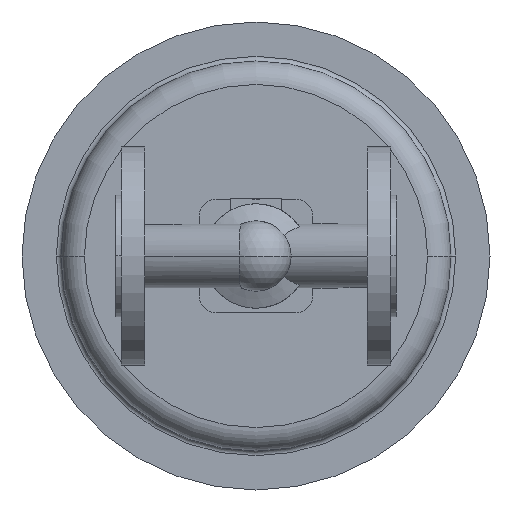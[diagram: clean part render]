
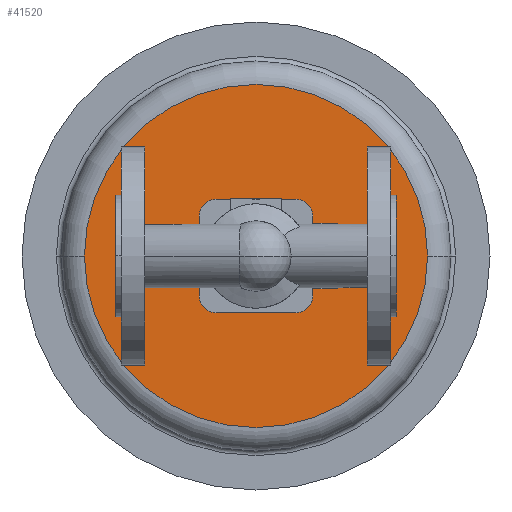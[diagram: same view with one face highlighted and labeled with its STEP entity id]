
A CAD part, front view. The second image highlights one B-rep face of the part: STEP entity #41520.
In plain terms, the highlighted planar face has unit normal (0, -1, 0).
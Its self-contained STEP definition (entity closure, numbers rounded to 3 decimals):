
#34020=CARTESIAN_POINT('',(-20.,356.5,0.));
#34030=VERTEX_POINT('',#34020);
#34060=CARTESIAN_POINT('',(90.,356.5,0.));
#34070=DIRECTION('',(0.,1.,0.));
#34080=DIRECTION('',(1.,0.,0.));
#34090=AXIS2_PLACEMENT_3D('',#34060,#34070,#34080);
#34100=CIRCLE('',#34090,110.);
#34110=CARTESIAN_POINT('',(200.,356.5,0.));
#34120=VERTEX_POINT('',#34110);
#34130=EDGE_CURVE('',#34120,#34030,#34100,.T.);
#34790=CARTESIAN_POINT('',(155.,356.5,0.));
#34800=VERTEX_POINT('',#34790);
#34960=CARTESIAN_POINT('',(125.,356.5,0.));
#34970=VERTEX_POINT('',#34960);
#35000=CARTESIAN_POINT('',(140.,356.5,0.));
#35010=DIRECTION('',(0.,1.,0.));
#35020=DIRECTION('',(1.,0.,0.));
#35030=AXIS2_PLACEMENT_3D('',#35000,#35010,#35020);
#35040=CIRCLE('',#35030,15.);
#35050=EDGE_CURVE('',#34970,#34800,#35040,.T.);
#35210=CARTESIAN_POINT('',(55.,356.5,0.));
#35220=VERTEX_POINT('',#35210);
#35380=CARTESIAN_POINT('',(25.,356.5,0.));
#35390=VERTEX_POINT('',#35380);
#35420=CARTESIAN_POINT('',(40.,356.5,0.));
#35430=DIRECTION('',(0.,1.,0.));
#35440=DIRECTION('',(1.,0.,0.));
#35450=AXIS2_PLACEMENT_3D('',#35420,#35430,#35440);
#35460=CIRCLE('',#35450,15.);
#35470=EDGE_CURVE('',#35390,#35220,#35460,.T.);
#35610=CARTESIAN_POINT('',(108.45,356.5,0.));
#35620=VERTEX_POINT('',#35610);
#35800=CARTESIAN_POINT('',(71.55,356.5,0.));
#35810=VERTEX_POINT('',#35800);
#35840=CARTESIAN_POINT('',(90.,356.5,0.));
#35850=DIRECTION('',(0.,1.,0.));
#35860=DIRECTION('',(1.,0.,0.));
#35870=AXIS2_PLACEMENT_3D('',#35840,#35850,#35860);
#35880=CIRCLE('',#35870,18.45);
#35890=EDGE_CURVE('',#35810,#35620,#35880,.T.);
#41270=CARTESIAN_POINT('',(145.,356.5,0.));
#41280=DIRECTION('',(0.,-1.,0.));
#41290=DIRECTION('',(-1.,0.,0.));
#41300=AXIS2_PLACEMENT_3D('',#41270,#41280,#41290);
#41310=PLANE('',#41300);
#41320=EDGE_CURVE('',#35620,#35810,#35880,.T.);
#41330=ORIENTED_EDGE('',*,*,#41320,.T.);
#41340=ORIENTED_EDGE('',*,*,#35890,.T.);
#41350=EDGE_LOOP('',(#41340,#41330));
#41360=FACE_BOUND('',#41350,.T.);
#41370=EDGE_CURVE('',#35220,#35390,#35460,.T.);
#41380=ORIENTED_EDGE('',*,*,#41370,.T.);
#41390=ORIENTED_EDGE('',*,*,#35470,.T.);
#41400=EDGE_LOOP('',(#41390,#41380));
#41410=FACE_BOUND('',#41400,.T.);
#41420=EDGE_CURVE('',#34800,#34970,#35040,.T.);
#41430=ORIENTED_EDGE('',*,*,#41420,.T.);
#41440=ORIENTED_EDGE('',*,*,#35050,.T.);
#41450=EDGE_LOOP('',(#41440,#41430));
#41460=FACE_BOUND('',#41450,.T.);
#41470=ORIENTED_EDGE('',*,*,#34130,.F.);
#41480=EDGE_CURVE('',#34030,#34120,#34100,.T.);
#41490=ORIENTED_EDGE('',*,*,#41480,.F.);
#41500=EDGE_LOOP('',(#41490,#41470));
#41510=FACE_OUTER_BOUND('',#41500,.T.);
#41520=ADVANCED_FACE('',(#41360,#41410,#41460,#41510),#41310,.T.);
